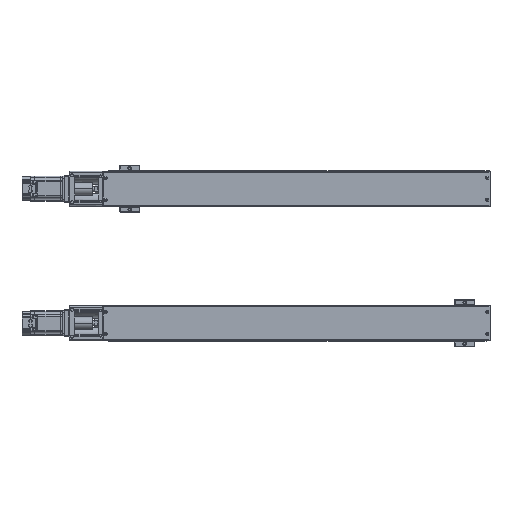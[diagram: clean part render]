
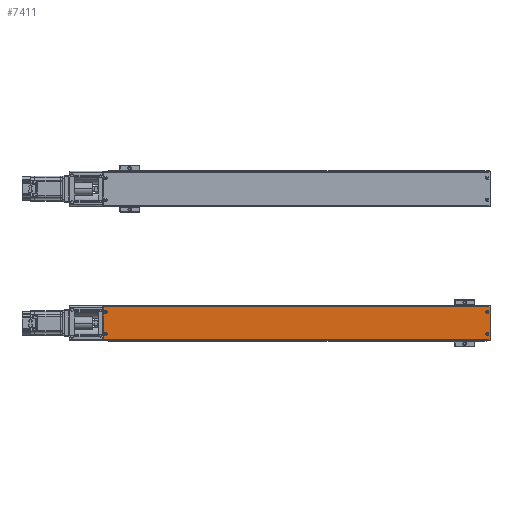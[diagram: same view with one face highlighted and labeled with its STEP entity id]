
A CAD part, top view. The second image highlights one B-rep face of the part: STEP entity #7411.
In plain terms, the highlighted planar face has unit normal (0, 0, 1).
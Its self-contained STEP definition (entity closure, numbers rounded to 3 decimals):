
#7411=ADVANCED_FACE('',(#17463),#17464,.T.);
#17463=FACE_OUTER_BOUND('',#33324,.T.);
#17464=PLANE('',#33325);
#33324=EDGE_LOOP('',(#60878,#60879,#60880,#60881));
#33325=AXIS2_PLACEMENT_3D('',#60882,#60883,#60884);
#60878=ORIENTED_EDGE('',*,*,#90023,.T.);
#60879=ORIENTED_EDGE('',*,*,#92854,.F.);
#60880=ORIENTED_EDGE('',*,*,#94568,.T.);
#60881=ORIENTED_EDGE('',*,*,#94569,.F.);
#60882=CARTESIAN_POINT('',(250.12,-1045.19,-6.33));
#60883=DIRECTION('',(0.0,-0.0,1.0));
#60884=DIRECTION('',(1.0,0.,0.0));
#90023=EDGE_CURVE('',#105049,#105046,#105050,.T.);
#92854=EDGE_CURVE('',#109935,#105046,#109937,.T.);
#94568=EDGE_CURVE('',#109935,#112697,#112698,.T.);
#94569=EDGE_CURVE('',#105049,#112697,#112699,.T.);
#105046=VERTEX_POINT('',#126223);
#105049=VERTEX_POINT('',#126226);
#105050=LINE('',#126227,#126228);
#109935=VERTEX_POINT('',#132556);
#109937=LINE('',#132558,#132559);
#112697=VERTEX_POINT('',#136166);
#112698=LINE('',#136167,#136168);
#112699=LINE('',#136169,#136170);
#126223=CARTESIAN_POINT('',(467.62,-1081.69,-6.33));
#126226=CARTESIAN_POINT('',(467.62,-1008.69,-6.33));
#126227=CARTESIAN_POINT('',(467.62,-1046.94,-6.33));
#126228=VECTOR('',#153327,1.0);
#132556=CARTESIAN_POINT('',(1331.62,-1081.69,-6.33));
#132558=CARTESIAN_POINT('',(850.12,-1081.69,-6.33));
#132559=VECTOR('',#157949,1.0);
#136166=CARTESIAN_POINT('',(1331.62,-1008.69,-6.33));
#136167=CARTESIAN_POINT('',(1331.62,-1045.19,-6.33));
#136168=VECTOR('',#160678,1.0);
#136169=CARTESIAN_POINT('',(850.12,-1008.69,-6.33));
#136170=VECTOR('',#160679,1.0);
#153327=DIRECTION('',(0.0,-1.0,0.0));
#157949=DIRECTION('',(-1.0,0.,0.0));
#160678=DIRECTION('',(0.,1.0,0.));
#160679=DIRECTION('',(1.0,0.,0.0));
